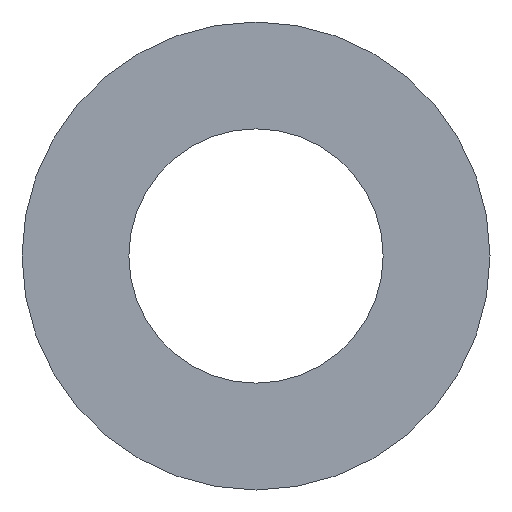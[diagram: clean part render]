
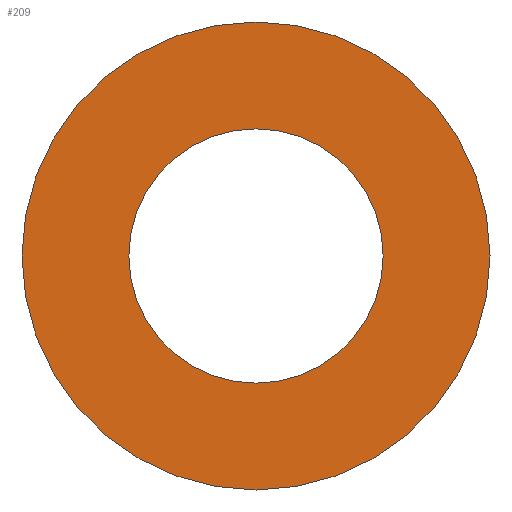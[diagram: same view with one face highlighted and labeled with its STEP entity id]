
A CAD part, front view. The second image highlights one B-rep face of the part: STEP entity #209.
In plain terms, the highlighted planar face has unit normal (0, -1, 0).
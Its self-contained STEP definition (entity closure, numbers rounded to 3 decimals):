
#16 = DIRECTION ( 'NONE',  ( 0., 1., 0. ) ) ;
#21 = ORIENTED_EDGE ( 'NONE', *, *, #95, .T. ) ;
#23 = AXIS2_PLACEMENT_3D ( 'NONE', #151, #242, #219 ) ;
#25 = CARTESIAN_POINT ( 'NONE',  ( 0., 0., -12.5 ) ) ;
#31 = CIRCLE ( 'NONE', #23, 23. ) ;
#34 = DIRECTION ( 'NONE',  ( 0., 1., 0. ) ) ;
#35 = DIRECTION ( 'NONE',  ( 0., 1., 0. ) ) ;
#41 = VERTEX_POINT ( 'NONE', #248 ) ;
#43 = DIRECTION ( 'NONE',  ( 0., 1., 0. ) ) ;
#47 = CARTESIAN_POINT ( 'NONE',  ( 0., 0., 0. ) ) ;
#49 = CARTESIAN_POINT ( 'NONE',  ( 0., 0., -23. ) ) ;
#59 = EDGE_CURVE ( 'NONE', #64, #261, #31, .T. ) ;
#60 = EDGE_LOOP ( 'NONE', ( #164, #21 ) ) ;
#62 = CIRCLE ( 'NONE', #76, 12.5 ) ;
#64 = VERTEX_POINT ( 'NONE', #150 ) ;
#66 = FACE_BOUND ( 'NONE', #60, .T. ) ;
#76 = AXIS2_PLACEMENT_3D ( 'NONE', #84, #16, #140 ) ;
#79 = EDGE_CURVE ( 'NONE', #261, #64, #197, .T. ) ;
#84 = CARTESIAN_POINT ( 'NONE',  ( 0., 0., 0. ) ) ;
#94 = AXIS2_PLACEMENT_3D ( 'NONE', #114, #34, #225 ) ;
#95 = EDGE_CURVE ( 'NONE', #41, #231, #62, .T. ) ;
#96 = EDGE_LOOP ( 'NONE', ( #111, #215 ) ) ;
#104 = EDGE_CURVE ( 'NONE', #231, #41, #204, .T. ) ;
#111 = ORIENTED_EDGE ( 'NONE', *, *, #79, .F. ) ;
#114 = CARTESIAN_POINT ( 'NONE',  ( 0., 0., 0. ) ) ;
#140 = DIRECTION ( 'NONE',  ( 0., 0., 1. ) ) ;
#141 = CARTESIAN_POINT ( 'NONE',  ( 0., 0., 0. ) ) ;
#146 = FACE_OUTER_BOUND ( 'NONE', #96, .T. ) ;
#150 = CARTESIAN_POINT ( 'NONE',  ( 0., 0., 23. ) ) ;
#151 = CARTESIAN_POINT ( 'NONE',  ( 0., 0., 0. ) ) ;
#164 = ORIENTED_EDGE ( 'NONE', *, *, #104, .T. ) ;
#176 = AXIS2_PLACEMENT_3D ( 'NONE', #47, #43, #276 ) ;
#197 = CIRCLE ( 'NONE', #94, 23. ) ;
#204 = CIRCLE ( 'NONE', #246, 12.5 ) ;
#205 = DIRECTION ( 'NONE',  ( 0., 0., 1. ) ) ;
#209 = ADVANCED_FACE ( 'NONE', ( #146, #66 ), #214, .F. ) ;
#214 = PLANE ( 'NONE',  #176 ) ;
#215 = ORIENTED_EDGE ( 'NONE', *, *, #59, .F. ) ;
#219 = DIRECTION ( 'NONE',  ( 0., 0., 1. ) ) ;
#225 = DIRECTION ( 'NONE',  ( 0., 0., 1. ) ) ;
#231 = VERTEX_POINT ( 'NONE', #25 ) ;
#242 = DIRECTION ( 'NONE',  ( 0., 1., 0. ) ) ;
#246 = AXIS2_PLACEMENT_3D ( 'NONE', #141, #35, #205 ) ;
#248 = CARTESIAN_POINT ( 'NONE',  ( 0., 0., 12.5 ) ) ;
#261 = VERTEX_POINT ( 'NONE', #49 ) ;
#276 = DIRECTION ( 'NONE',  ( 0., 0., 1. ) ) ;
